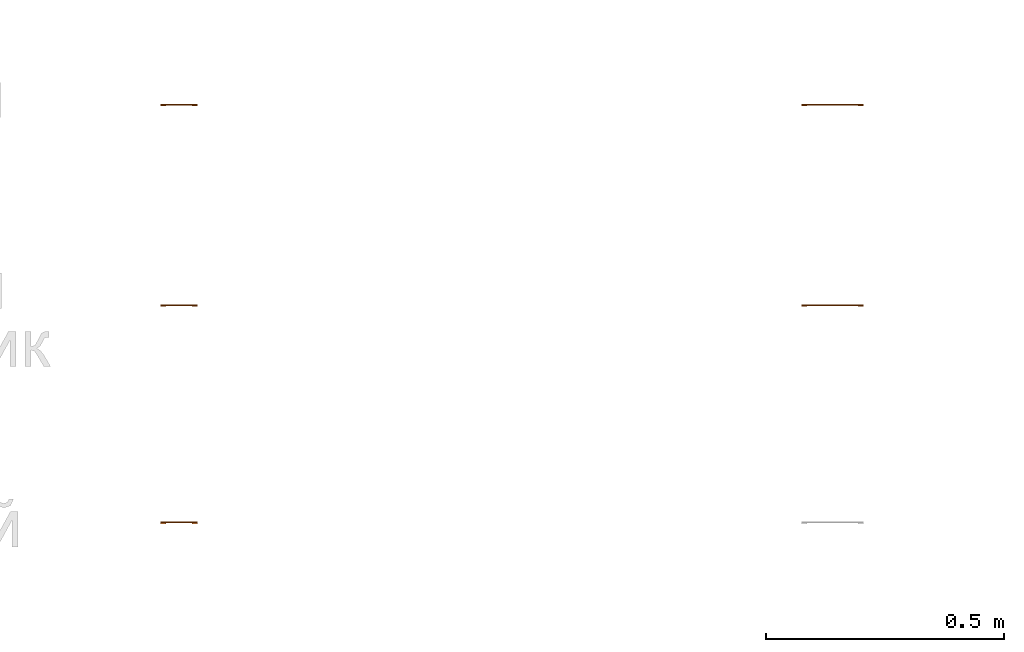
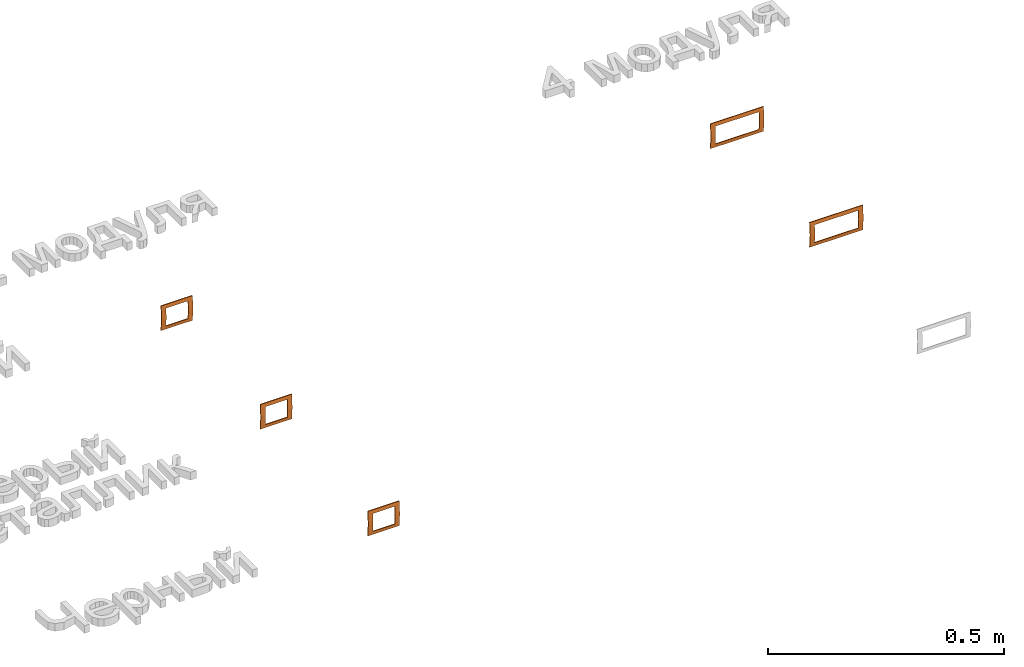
# One storey, part 81 of 87: 5 proxies.
"""IFC2X3 building model written with IfcOpenShell, lengths in millimetres."""

from ifc_helpers import new_model, entity, si_unit, converted_unit, derived_unit, direction, frame, origin, place, context, subcontext, project, spatial, faceted_brep, source, transform, mapped, material, type_object, type_shapes, element, save


model = new_model("IFC2X3")

# Units and contexts
model_context = context("Model", 3, precision=0.01, world=origin(), true_north=direction((6.12303176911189e-17, 1.0)))
body_context = subcontext(model_context, "Body", "Model", "MODEL_VIEW")
ifc_project = project(units=[si_unit("LENGTHUNIT", "METRE", prefix="MILLI"), si_unit("AREAUNIT", "SQUARE_METRE"), si_unit("VOLUMEUNIT", "CUBIC_METRE"), converted_unit("PLANEANGLEUNIT", "DEGREE", entity("IfcRatioMeasure", 0.0174532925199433), si_unit("PLANEANGLEUNIT", "RADIAN"), dimensions=[0, 0, 0, 0, 0, 0, 0]), si_unit("MASSUNIT", "GRAM", prefix="KILO"), derived_unit("MASSDENSITYUNIT", [(si_unit("MASSUNIT", "GRAM", prefix="KILO"), 1), (si_unit("LENGTHUNIT", "METRE"), -3)]), si_unit("TIMEUNIT", "SECOND"), si_unit("FREQUENCYUNIT", "HERTZ"), si_unit("THERMODYNAMICTEMPERATUREUNIT", "DEGREE_CELSIUS"), derived_unit("THERMALTRANSMITTANCEUNIT", [(si_unit("MASSUNIT", "GRAM", prefix="KILO"), 1), (si_unit("THERMODYNAMICTEMPERATUREUNIT", "KELVIN"), -1), (si_unit("TIMEUNIT", "SECOND"), -3)]), derived_unit("VOLUMETRICFLOWRATEUNIT", [(si_unit("LENGTHUNIT", "METRE"), 3), (si_unit("TIMEUNIT", "SECOND"), -1)]), si_unit("ELECTRICCURRENTUNIT", "AMPERE"), si_unit("ELECTRICVOLTAGEUNIT", "VOLT"), si_unit("POWERUNIT", "WATT"), si_unit("FORCEUNIT", "NEWTON", prefix="KILO"), si_unit("ILLUMINANCEUNIT", "LUX"), si_unit("LUMINOUSFLUXUNIT", "LUMEN"), si_unit("LUMINOUSINTENSITYUNIT", "CANDELA"), derived_unit("USERDEFINED", [(si_unit("MASSUNIT", "GRAM", prefix="KILO"), -1), (si_unit("LENGTHUNIT", "METRE"), -2), (si_unit("TIMEUNIT", "SECOND"), 3), (si_unit("LUMINOUSFLUXUNIT", "LUMEN"), 1)]), derived_unit("LINEARVELOCITYUNIT", [(si_unit("LENGTHUNIT", "METRE"), 1), (si_unit("TIMEUNIT", "SECOND"), -1)]), si_unit("PRESSUREUNIT", "PASCAL"), derived_unit("USERDEFINED", [(si_unit("LENGTHUNIT", "METRE"), -2), (si_unit("MASSUNIT", "GRAM", prefix="KILO"), 1), (si_unit("TIMEUNIT", "SECOND"), -2)])], contexts=[model_context])

# Site, building, storey
site_placement = place(None, origin())
site = spatial("IfcSite", under=ifc_project, at=site_placement, Name="Default", CompositionType="ELEMENT")
building_placement = place(site_placement, origin())
building = spatial("IfcBuilding", under=site, at=building_placement, Name="Наименование здания", CompositionType="ELEMENT")
storey_placement = place(building_placement, origin())
storey = spatial("IfcBuildingStorey", under=building, at=storey_placement, Name="Этаж 01", CompositionType="ELEMENT", Elevation=0.0)

# Proxies
ifc_material_1 = material(Name="DKC_Пластик_Белый")
building_element_proxy_type_1 = type_object("IfcBuildingElementProxyType", Name="2 модуля", PredefinedType="NOTDEFINED", material=ifc_material_1)
shared_shape_1 = source(origin(), body_context, "Body", "Brep", [
    faceted_brep([(38.5, -2.0, -31.9768143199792), (38.5, 0.0, -31.9768143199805), (38.5, -1.2790477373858, -15.9884071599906), (38.5, -2.55809547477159, 0.0), (38.5, -1.279047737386, 15.9884071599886), (38.5, 0.0, 31.9768143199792), (38.5, -2.0, 31.9768143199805), (38.5, -3.27904773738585, 15.9884071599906), (38.5, -4.55809547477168, 0.0), (38.5, -3.27904773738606, -15.9884071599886), (-38.5, -2.0, 31.9768143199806), (-38.5, 0.0, 31.9768143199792), (-38.5, -1.279047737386, 15.9884071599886), (-38.5, -2.55809547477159, 0.0), (-38.5, -1.27904773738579, -15.9884071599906), (-38.5, 0.0, -31.9768143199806), (-38.5, -2.0, -31.9768143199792), (-38.5, -3.27904773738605, -15.9884071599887), (-38.5, -4.55809547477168, 0.0), (-38.5, -3.27904773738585, 15.9884071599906), (-27.0, -4.55809547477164, 0.0), (-27.0, -3.89975693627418, 11.4884071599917), (27.0, -3.89975693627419, 11.4884071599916), (27.0, -4.55809547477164, 0.0), (-4.21978989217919e-06, -2.0, -31.9768143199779), (19.2500021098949, -2.0, -31.9768143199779), (27.0, -3.24141839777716, -22.9768143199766), (13.5, -3.24141839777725, -22.9768143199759), (0.0, -3.24141839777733, -22.9768143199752), (-13.5, -3.24141839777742, -22.9768143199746), (-27.0, -3.2414183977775, -22.9768143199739), (-19.2500021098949, -2.0, -31.9768143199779), (-27.0, -3.89975693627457, -11.4884071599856), (-27.0, -3.24141839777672, 22.9768143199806), (13.4999996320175, -3.24141839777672, 22.9768143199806), (27.0, -3.24141839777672, 22.9768143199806), (19.2499993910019, -2.0, 31.9768143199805), (-1.21799616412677e-06, -2.0, 31.9768143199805), (-19.2500018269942, -2.0, 31.9768143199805), (-13.4999996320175, -3.24141839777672, 22.9768143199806), (7.35965090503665e-07, -3.24141839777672, 22.9768143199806), (27.0, -3.8997569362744, -11.4884071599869), (-19.25, 0.0, -31.9768143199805), (0.0, 0.0, -31.9768143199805), (19.25, 0.0, -31.9768143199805), (-13.5, -1.24141839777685, -22.9768143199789), (0.0, -1.24141839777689, -22.9768143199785), (13.5, -1.24141839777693, -22.9768143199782), (27.0, -1.24141839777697, -22.9768143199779), (-27.0, -1.24141839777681, -22.9768143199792), (27.0, -1.89975693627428, -11.4884071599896), (27.0, -2.55809547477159, 0.0), (-27.0, -2.55809547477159, 0.0), (-27.0, -1.8997569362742, -11.4884071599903), (-27.0, -1.24141839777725, 22.9768143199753), (-27.0, -1.89975693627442, 11.488407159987), (3.11447244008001e-06, -1.24141839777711, 22.9768143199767), (-13.5000015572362, -1.24141839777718, 22.976814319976), (-19.2499978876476, 0.0, 31.9768143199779), (4.224704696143e-06, 0.0, 31.9768143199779), (19.250006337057, 0.0, 31.9768143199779), (27.0, -1.24141839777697, 22.976814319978), (13.5000015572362, -1.24141839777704, 22.9768143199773), (27.0, -1.89975693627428, 11.4884071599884)], [[[0, 1, 2, 3, 4, 5, 6, 7, 8, 9]], [[10, 11, 12, 13, 14, 15, 16, 17, 18, 19]], [[18, 20, 21]], [[8, 22, 23]], [[24, 25, 0, 26, 27, 28, 29, 30, 16, 31]], [[17, 32, 18]], [[19, 21, 33]], [[34, 35, 6, 36, 37, 38, 10, 33, 39, 40]], [[33, 10, 19]], [[6, 35, 7]], [[18, 32, 20]], [[41, 8, 23]], [[26, 0, 9]], [[16, 30, 17]], [[9, 41, 26]], [[7, 22, 8]], [[17, 30, 32]], [[8, 41, 9]], [[7, 35, 22]], [[18, 21, 19]], [[1, 0, 25, 24, 31, 16, 15, 42, 43, 44]], [[45, 46, 47, 48, 1, 44, 43, 42, 15, 49]], [[50, 51, 3]], [[52, 53, 13]], [[15, 14, 49]], [[14, 13, 53]], [[12, 54, 55]], [[12, 11, 54]], [[56, 57, 54, 11, 58, 59, 60, 5, 61, 62]], [[61, 5, 4]], [[4, 3, 63]], [[51, 63, 3]], [[55, 52, 13]], [[2, 1, 48]], [[2, 48, 50]], [[12, 55, 13]], [[63, 61, 4]], [[2, 50, 3]], [[53, 49, 14]], [[6, 5, 60, 59, 58, 11, 10, 38, 37, 36]], [[26, 41, 23, 22, 35, 61, 63, 51, 50, 48]], [[33, 21, 20, 32, 30, 49, 53, 52, 55, 54]], [[35, 34, 40, 39, 33, 54, 57, 56, 62, 61]], [[26, 48, 47, 46, 45, 49, 30, 29, 28, 27]]]),
])
type_shapes(building_element_proxy_type_1, [shared_shape_1])
proxy_1_placement = place(storey_placement, frame((77304.4662281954, -7638.63930816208, 0.0)))
element("IfcBuildingElementProxy", 1, at=proxy_1_placement, inside=storey, type_object=building_element_proxy_type_1, material=ifc_material_1, Name="КНС_РамкаУниверсальная_ILF_DKC:2 модуля", ObjectType="2 модуля", context=body_context, shape_type="MappedRepresentation", body=[
    mapped(shared_shape_1, transform((0.0, 0.0, 0.0), scale=1.0)),
])
ifc_material_2 = material(Name="DKC_Пластик_СерыйМеталлик")
building_element_proxy_type_2 = type_object("IfcBuildingElementProxyType", Name="2 модуля", PredefinedType="NOTDEFINED", material=ifc_material_2)
shared_shape_2 = source(origin(), body_context, "Body", "Brep", [
    faceted_brep([(27.0, -3.24141839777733, -22.9768143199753), (27.0, -3.89975693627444, -11.488407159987), (27.0, -4.55809547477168, 0.0), (27.0, -3.89975693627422, 11.4884071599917), (27.0, -3.24141839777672, 22.9768143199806), (27.0, -1.24141839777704, 22.9768143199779), (27.0, -1.89975693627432, 11.4884071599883), (27.0, -2.55809547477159, 0.0), (27.0, -1.89975693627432, -11.4884071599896), (27.0, -1.24141839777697, -22.9768143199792), (-27.0, -3.24141839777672, 22.9768143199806), (-27.0, -3.89975693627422, 11.4884071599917), (-27.0, -4.55809547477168, 0.0), (-27.0, -3.89975693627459, -11.4884071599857), (-27.0, -3.24141839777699, -22.9768143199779), (-27.0, -1.24141839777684, -22.9768143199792), (-27.0, -1.89975693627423, -11.4884071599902), (-27.0, -2.55809547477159, 0.0), (-27.0, -1.89975693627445, 11.488407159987), (-27.0, -1.24141839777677, 22.9768143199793), (13.4999996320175, -3.24141839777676, 22.9768143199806), (7.35965086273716e-07, -3.24141839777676, 22.9768143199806), (-13.4999996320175, -3.24141839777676, 22.9768143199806), (-13.4999968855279, -1.24141839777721, 22.976814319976), (0.0, -1.24141839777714, 22.9768143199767), (13.4999968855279, -1.24141839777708, 22.9768143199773), (13.5000003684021, -1.24141839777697, -22.9768143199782), (7.36804227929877e-07, -1.24141839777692, -22.9768143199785), (-13.5000003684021, -1.24141839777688, -22.9768143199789), (-13.499996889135, -3.24141839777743, -22.9768143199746), (0.0, -3.24141839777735, -22.9768143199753), (13.499996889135, -3.24141839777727, -22.9768143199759), (38.5000000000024, -2.0, -31.9768143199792), (38.5000000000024, 0.0, -31.9768143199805), (38.5000000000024, -1.27904773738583, -15.9884071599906), (38.5000000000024, -2.55809547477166, 0.0), (38.5000000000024, -1.27904773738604, 15.9884071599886), (38.5000000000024, 0.0, 31.9768143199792), (38.5000000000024, -2.0, 31.9768143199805), (38.5000000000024, -3.27904773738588, 15.9884071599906), (38.5000000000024, -4.55809547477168, 0.0), (38.5000000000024, -3.27904773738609, -15.9884071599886), (-38.5000000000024, -2.0, 31.9768143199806), (-38.5000000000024, 0.0, 31.9768143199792), (-38.5000000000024, -1.27904773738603, 15.9884071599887), (-38.5000000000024, -2.55809547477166, 0.0), (-38.5000000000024, -1.27904773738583, -15.9884071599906), (-38.5000000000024, 0.0, -31.9768143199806), (-38.5000000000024, -2.0, -31.9768143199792), (-38.5000000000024, -3.27904773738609, -15.9884071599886), (-38.5000000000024, -4.55809547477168, 0.0), (-38.5000000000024, -3.27904773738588, 15.9884071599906), (-4.21978989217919e-06, -2.0, -31.9768143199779), (19.2500021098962, -2.0, -31.9768143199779), (-19.2500021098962, -2.0, -31.9768143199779), (19.2499993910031, -2.0, 31.9768143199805), (-1.21799616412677e-06, -2.0, 31.9768143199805), (-19.2500018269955, -2.0, 31.9768143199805), (-19.2500000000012, 0.0, -31.9768143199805), (0.0, 0.0, -31.9768143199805), (19.2500000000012, 0.0, -31.9768143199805), (-19.2499978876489, 0.0, 31.9768143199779), (4.224704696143e-06, 0.0, 31.9768143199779), (19.2500063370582, 0.0, 31.9768143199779)], [[[0, 1, 2, 3, 4, 5, 6, 7, 8, 9]], [[10, 11, 12, 13, 14, 15, 16, 17, 18, 19]], [[4, 20, 21, 22, 10, 19, 23, 24, 25, 5]], [[0, 9, 26, 27, 28, 15, 14, 29, 30, 31]], [[32, 33, 34, 35, 36, 37, 38, 39, 40, 41]], [[42, 43, 44, 45, 46, 47, 48, 49, 50, 51]], [[50, 12, 11]], [[40, 3, 2]], [[52, 53, 32, 0, 31, 30, 29, 14, 48, 54]], [[49, 13, 50]], [[51, 11, 10]], [[20, 4, 38, 55, 56, 57, 42, 10, 22, 21]], [[10, 42, 51]], [[38, 4, 39]], [[50, 13, 12]], [[1, 40, 2]], [[0, 32, 41]], [[48, 14, 49]], [[41, 1, 0]], [[39, 3, 40]], [[49, 14, 13]], [[40, 1, 41]], [[39, 4, 3]], [[50, 11, 51]], [[33, 32, 53, 52, 54, 48, 47, 58, 59, 60]], [[28, 27, 26, 9, 33, 60, 59, 58, 47, 15]], [[8, 7, 35]], [[17, 16, 45]], [[47, 46, 15]], [[46, 45, 16]], [[44, 19, 18]], [[44, 43, 19]], [[24, 23, 19, 43, 61, 62, 63, 37, 5, 25]], [[5, 37, 36]], [[36, 35, 6]], [[7, 6, 35]], [[18, 17, 45]], [[34, 33, 9]], [[34, 9, 8]], [[44, 18, 45]], [[6, 5, 36]], [[34, 8, 35]], [[16, 15, 46]], [[37, 63, 62, 61, 43, 42, 57, 56, 55, 38]]]),
])
type_shapes(building_element_proxy_type_2, [shared_shape_2])
proxy_2_placement = place(storey_placement, frame((77304.4662281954, -8059.01064109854, 0.0)))
element("IfcBuildingElementProxy", 2, at=proxy_2_placement, inside=storey, type_object=building_element_proxy_type_2, material=ifc_material_2, Name="КНС_РамкаУниверсальная_ILF_DKC:2 модуля", ObjectType="2 модуля", context=body_context, shape_type="MappedRepresentation", body=[
    mapped(shared_shape_2, transform((0.0, 0.0, 0.0), scale=1.0)),
])
ifc_material_3 = material(Name="DKC_Пластик_Серо-черный")
building_element_proxy_type_3 = type_object("IfcBuildingElementProxyType", Name="2 модуля", PredefinedType="NOTDEFINED", material=ifc_material_3)
shared_shape_3 = source(origin(), body_context, "Body", "Brep", [
    faceted_brep([(27.0, -3.2414183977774, -22.9768143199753), (27.0, -3.89975693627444, -11.488407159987), (27.0, -4.55809547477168, 0.0), (27.0, -3.89975693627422, 11.4884071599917), (27.0, -3.24141839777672, 22.9768143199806), (27.0, -1.24141839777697, 22.976814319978), (27.0, -1.89975693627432, 11.4884071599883), (27.0, -2.55809547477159, 0.0), (27.0, -1.89975693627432, -11.4884071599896), (27.0, -1.24141839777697, -22.9768143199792), (-27.0, -3.24141839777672, 22.9768143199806), (-27.0, -3.89975693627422, 11.4884071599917), (-27.0, -4.55809547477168, 0.0), (-27.0, -3.89975693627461, -11.4884071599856), (-27.0, -3.24141839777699, -22.9768143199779), (-27.0, -1.24141839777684, -22.9768143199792), (-27.0, -1.89975693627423, -11.4884071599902), (-27.0, -2.55809547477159, 0.0), (-27.0, -1.89975693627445, 11.4884071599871), (-27.0, -1.24141839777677, 22.9768143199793), (13.4999996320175, -3.24141839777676, 22.9768143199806), (7.35965086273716e-07, -3.24141839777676, 22.9768143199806), (-13.4999996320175, -3.24141839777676, 22.9768143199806), (-13.5000015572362, -1.24141839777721, 22.9768143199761), (3.11447243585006e-06, -1.24141839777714, 22.9768143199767), (13.5000015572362, -1.24141839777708, 22.9768143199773), (13.5000003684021, -1.24141839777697, -22.9768143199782), (7.36804227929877e-07, -1.24141839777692, -22.9768143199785), (-13.5000003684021, -1.24141839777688, -22.9768143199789), (-13.4999984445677, -3.24141839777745, -22.9768143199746), (3.11086464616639e-06, -3.24141839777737, -22.9768143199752), (13.4999984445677, -3.24141839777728, -22.9768143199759), (38.5000000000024, -2.0, -31.9768143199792), (38.5000000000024, 0.0, -31.9768143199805), (38.5000000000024, -1.27904773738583, -15.9884071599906), (38.5000000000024, -2.55809547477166, 0.0), (38.5000000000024, -1.27904773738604, 15.9884071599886), (38.5000000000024, 0.0, 31.9768143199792), (38.5000000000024, -2.0, 31.9768143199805), (38.5000000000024, -3.27904773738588, 15.9884071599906), (38.5000000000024, -4.55809547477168, 0.0), (38.5000000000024, -3.27904773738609, -15.9884071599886), (-38.5000000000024, -2.0, 31.9768143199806), (-38.5000000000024, 0.0, 31.9768143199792), (-38.5000000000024, -1.27904773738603, 15.9884071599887), (-38.5000000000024, -2.55809547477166, 0.0), (-38.5000000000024, -1.27904773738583, -15.9884071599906), (-38.5000000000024, 0.0, -31.9768143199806), (-38.5000000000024, -2.0, -31.9768143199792), (-38.5000000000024, -3.27904773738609, -15.9884071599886), (-38.5000000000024, -4.55809547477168, 0.0), (-38.5000000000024, -3.27904773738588, 15.9884071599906), (-4.21978989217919e-06, -2.0, -31.9768143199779), (19.2500021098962, -2.0, -31.9768143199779), (-19.2500021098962, -2.0, -31.9768143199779), (19.2499993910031, -2.0, 31.9768143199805), (-1.21799616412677e-06, -2.0, 31.9768143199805), (-19.2500018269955, -2.0, 31.9768143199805), (-19.2500000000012, 0.0, -31.9768143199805), (0.0, 0.0, -31.9768143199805), (19.2500000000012, 0.0, -31.9768143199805), (-19.2499978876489, 0.0, 31.9768143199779), (4.224704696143e-06, 0.0, 31.9768143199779), (19.2500063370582, 0.0, 31.9768143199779)], [[[0, 1, 2, 3, 4, 5, 6, 7, 8, 9]], [[10, 11, 12, 13, 14, 15, 16, 17, 18, 19]], [[4, 20, 21, 22, 10, 19, 23, 24, 25, 5]], [[0, 9, 26, 27, 28, 15, 14, 29, 30, 31]], [[32, 33, 34, 35, 36, 37, 38, 39, 40, 41]], [[42, 43, 44, 45, 46, 47, 48, 49, 50, 51]], [[50, 12, 11]], [[40, 3, 2]], [[52, 53, 32, 0, 31, 30, 29, 14, 48, 54]], [[49, 13, 50]], [[51, 11, 10]], [[20, 4, 38, 55, 56, 57, 42, 10, 22, 21]], [[10, 42, 51]], [[38, 4, 39]], [[50, 13, 12]], [[1, 40, 2]], [[0, 32, 41]], [[48, 14, 49]], [[41, 1, 0]], [[39, 3, 40]], [[49, 14, 13]], [[40, 1, 41]], [[39, 4, 3]], [[50, 11, 51]], [[33, 32, 53, 52, 54, 48, 47, 58, 59, 60]], [[28, 27, 26, 9, 33, 60, 59, 58, 47, 15]], [[8, 7, 35]], [[17, 16, 45]], [[47, 46, 15]], [[46, 45, 16]], [[44, 19, 18]], [[44, 43, 19]], [[24, 23, 19, 43, 61, 62, 63, 37, 5, 25]], [[5, 37, 36]], [[36, 35, 6]], [[7, 6, 35]], [[18, 17, 45]], [[34, 33, 9]], [[34, 9, 8]], [[44, 18, 45]], [[6, 5, 36]], [[34, 8, 35]], [[16, 15, 46]], [[37, 63, 62, 61, 43, 42, 57, 56, 55, 38]]]),
])
type_shapes(building_element_proxy_type_3, [shared_shape_3])
proxy_3_placement = place(storey_placement, frame((77304.4662281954, -8514.43036670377, 0.0)))
element("IfcBuildingElementProxy", 3, at=proxy_3_placement, inside=storey, type_object=building_element_proxy_type_3, material=ifc_material_3, Name="КНС_РамкаУниверсальная_ILF_DKC:2 модуля", ObjectType="2 модуля", context=body_context, shape_type="MappedRepresentation", body=[
    mapped(shared_shape_3, transform((0.0, 0.0, 0.0), scale=1.0)),
])
building_element_proxy_type_4 = type_object("IfcBuildingElementProxyType", Name="4 модуля", PredefinedType="NOTDEFINED", material=ifc_material_1)
shared_shape_4 = source(origin(), body_context, "Body", "Brep", [
    faceted_brep([(65.0, -2.0, -31.9768143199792), (65.0, 0.0, -31.9768143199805), (65.0, -0.639523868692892, -23.9826107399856), (65.0, -1.27904773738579, -15.9884071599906), (65.0, -1.91857160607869, -7.99420357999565), (65.0, -2.55809547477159, 0.0), (65.0, -1.91857160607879, 7.99420357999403), (65.0, -1.279047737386, 15.9884071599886), (65.0, -0.639523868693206, 23.9826107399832), (65.0, 0.0, 31.9768143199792), (65.0, -2.0, 31.9768143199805), (65.0, -2.63952386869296, 23.9826107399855), (65.0, -3.27904773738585, 15.9884071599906), (65.0, -3.91857160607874, 7.99420357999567), (65.0, -4.55809547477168, 0.0), (65.0, -3.91857160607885, -7.99420357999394), (65.0, -3.27904773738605, -15.9884071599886), (65.0, -2.63952386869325, -23.9826107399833), (-65.0, -2.0, 31.9768143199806), (-65.0, 0.0, 31.9768143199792), (-65.0, -0.639523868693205, 23.9826107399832), (-65.0, -1.279047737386, 15.9884071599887), (-65.0, -1.91857160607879, 7.99420357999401), (-65.0, -2.55809547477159, 0.0), (-65.0, -1.91857160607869, -7.99420357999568), (-65.0, -1.2790477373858, -15.9884071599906), (-65.0, -0.639523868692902, -23.9826107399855), (-65.0, 0.0, -31.9768143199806), (-65.0, -2.0, -31.9768143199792), (-65.0, -2.63952386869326, -23.9826107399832), (-65.0, -3.27904773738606, -15.9884071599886), (-65.0, -3.91857160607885, -7.99420357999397), (-65.0, -4.55809547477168, 0.0), (-65.0, -3.91857160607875, 7.99420357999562), (-65.0, -3.27904773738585, 15.9884071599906), (-65.0, -2.63952386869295, 23.9826107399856), (-53.5, -4.22892620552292, 5.74420357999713), (-53.5, -3.89975693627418, 11.4884071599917), (53.5, -3.57058766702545, 17.2326107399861), (53.5, -3.24141839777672, 22.9768143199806), (-53.5, -3.89975693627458, -11.4884071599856), (-53.5, -3.57058766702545, 17.2326107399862), (-53.5, -3.24141839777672, 22.9768143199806), (26.75, -3.24141839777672, 22.9768143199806), (32.5, -2.0, 31.9768143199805), (0.0, -2.0, 31.9768143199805), (-32.5, -2.0, 31.9768143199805), (-26.75, -3.24141839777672, 22.9768143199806), (0.0, -3.24141839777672, 22.9768143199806), (-53.5, -4.22892620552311, -5.74420357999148), (53.5, -3.57058766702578, -17.2326107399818), (53.5, -4.22892620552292, 5.74420357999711), (-53.5, -3.2414183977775, -22.9768143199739), (0.0, -2.0, -31.9768143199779), (32.5, -2.0, -31.9768143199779), (53.5, -3.24141839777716, -22.9768143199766), (26.75, -3.24141839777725, -22.9768143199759), (0.0, -3.24141839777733, -22.9768143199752), (-26.75, -3.24141839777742, -22.9768143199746), (-32.5, -2.0, -31.9768143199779), (53.5, -4.22892620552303, -5.74420357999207), (53.5, -3.8997569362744, -11.4884071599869), (53.5, -3.89975693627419, 11.4884071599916), (-53.5, -3.57058766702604, -17.2326107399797), (-53.5, -4.55809547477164, 0.0), (53.5, -4.55809547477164, 0.0), (-32.5, 0.0, -31.9768143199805), (0.0, 0.0, -31.9768143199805), (32.5, 0.0, -31.9768143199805), (-26.75, -1.24141839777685, -22.9768143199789), (0.0, -1.24141839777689, -22.9768143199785), (26.75, -1.24141839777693, -22.9768143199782), (53.5, -1.24141839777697, -22.9768143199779), (-53.5, -1.24141839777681, -22.9768143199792), (53.5, -1.89975693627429, -11.4884071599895), (53.5, -2.22892620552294, -5.74420357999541), (-53.5, -2.2289262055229, -5.74420357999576), (-53.5, -1.8997569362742, -11.4884071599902), (-53.5, -1.57058766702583, 17.2326107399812), (-53.5, -1.24141839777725, 22.9768143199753), (53.5, -1.24141839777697, 22.976814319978), (-32.5, 0.0, 31.9768143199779), (0.0, 0.0, 31.9768143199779), (32.5, 0.0, 31.9768143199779), (26.75, -1.24141839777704, 22.9768143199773), (0.0, -1.24141839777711, 22.9768143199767), (-26.75, -1.24141839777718, 22.976814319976), (53.5, -1.89975693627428, 11.4884071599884), (53.5, -2.22892620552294, 5.74420357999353), (-53.5, -1.89975693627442, 11.4884071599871), (-53.5, -2.22892620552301, 5.74420357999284), (53.5, -1.57058766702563, -17.2326107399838), (53.5, -1.57058766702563, 17.2326107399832), (-53.5, -1.5705876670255, -17.2326107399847), (-53.5, -2.55809547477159, 0.0), (53.5, -2.55809547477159, 0.0)], [[[0, 1, 2, 3, 4, 5, 6, 7, 8, 9, 10, 11, 12, 13, 14, 15, 16, 17]], [[18, 19, 20, 21, 22, 23, 24, 25, 26, 27, 28, 29, 30, 31, 32, 33, 34, 35]], [[36, 37, 33]], [[38, 11, 39]], [[30, 40, 31]], [[41, 42, 35]], [[43, 39, 10, 44, 45, 46, 18, 42, 47, 48]], [[35, 34, 41]], [[10, 39, 11]], [[49, 32, 31]], [[17, 16, 50]], [[51, 14, 13]], [[28, 52, 29]], [[53, 54, 0, 55, 56, 57, 58, 52, 28, 59]], [[15, 60, 61]], [[50, 55, 17]], [[55, 0, 17]], [[12, 62, 13]], [[42, 18, 35]], [[63, 29, 52]], [[36, 32, 64]], [[14, 51, 65]], [[30, 63, 40]], [[60, 14, 65]], [[32, 49, 64]], [[12, 38, 62]], [[34, 37, 41]], [[29, 63, 30]], [[16, 61, 50]], [[11, 38, 12]], [[37, 34, 33]], [[61, 16, 15]], [[14, 60, 15]], [[32, 36, 33]], [[31, 40, 49]], [[13, 62, 51]], [[1, 0, 54, 53, 59, 28, 27, 66, 67, 68]], [[69, 70, 71, 72, 1, 68, 67, 66, 27, 73]], [[4, 74, 75]], [[24, 23, 76]], [[27, 26, 73]], [[25, 24, 77]], [[78, 20, 79]], [[78, 21, 20]], [[2, 1, 72]], [[80, 9, 8]], [[79, 19, 81, 82, 83, 9, 80, 84, 85, 86]], [[7, 6, 87]], [[6, 5, 88]], [[22, 89, 90]], [[91, 3, 2]], [[80, 8, 92]], [[91, 2, 72]], [[73, 26, 93]], [[20, 19, 79]], [[77, 93, 25]], [[94, 23, 90]], [[95, 88, 5]], [[87, 92, 7]], [[95, 5, 75]], [[94, 76, 23]], [[25, 93, 26]], [[78, 89, 21]], [[7, 92, 8]], [[91, 74, 3]], [[22, 21, 89]], [[4, 3, 74]], [[4, 75, 5]], [[22, 90, 23]], [[76, 77, 24]], [[88, 87, 6]], [[10, 9, 83, 82, 81, 19, 18, 46, 45, 44]], [[55, 50, 61, 60, 65, 51, 62, 38, 39, 80, 92, 87, 88, 95, 75, 74, 91, 72]], [[42, 41, 37, 36, 64, 49, 40, 63, 52, 73, 93, 77, 76, 94, 90, 89, 78, 79]], [[80, 39, 43, 48, 47, 42, 79, 86, 85, 84]], [[55, 72, 71, 70, 69, 73, 52, 58, 57, 56]]]),
])
type_shapes(building_element_proxy_type_4, [shared_shape_4])
proxy_4_placement = place(storey_placement, frame((78674.7265172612, -7638.63930816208, 0.0)))
element("IfcBuildingElementProxy", 4, at=proxy_4_placement, inside=storey, type_object=building_element_proxy_type_4, material=ifc_material_1, Name="КНС_РамкаУниверсальная_ILF_DKC:4 модуля", ObjectType="4 модуля", context=body_context, shape_type="MappedRepresentation", body=[
    mapped(shared_shape_4, transform((0.0, 0.0, 0.0), scale=1.0)),
])
building_element_proxy_type_5 = type_object("IfcBuildingElementProxyType", Name="4 модуля", PredefinedType="NOTDEFINED", material=ifc_material_2)
shared_shape_5 = source(origin(), body_context, "Body", "Brep", [
    faceted_brep([(53.5, -3.24141839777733, -22.9768143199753), (53.5, -3.57058766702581, -17.2326107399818), (53.5, -3.89975693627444, -11.4884071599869), (53.5, -4.22892620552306, -5.74420357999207), (53.5, -4.55809547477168, 0.0), (53.5, -4.22892620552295, 5.74420357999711), (53.5, -3.89975693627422, 11.4884071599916), (53.5, -3.57058766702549, 17.2326107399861), (53.5, -3.24141839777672, 22.9768143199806), (53.5, -1.24141839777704, 22.9768143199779), (53.5, -1.57058766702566, 17.2326107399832), (53.5, -1.89975693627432, 11.4884071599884), (53.5, -2.22892620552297, 5.74420357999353), (53.5, -2.55809547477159, 0.0), (53.5, -2.22892620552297, -5.74420357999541), (53.5, -1.89975693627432, -11.4884071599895), (53.5, -1.57058766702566, -17.2326107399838), (53.5, -1.24141839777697, -22.9768143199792), (-53.5, -3.24141839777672, 22.9768143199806), (-53.5, -3.57058766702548, 17.2326107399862), (-53.5, -3.89975693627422, 11.4884071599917), (-53.5, -4.22892620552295, 5.74420357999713), (-53.5, -4.55809547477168, 0.0), (-53.5, -4.22892620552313, -5.74420357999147), (-53.5, -3.89975693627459, -11.4884071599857), (-53.5, -3.57058766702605, -17.2326107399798), (-53.5, -3.24141839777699, -22.9768143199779), (-53.5, -1.24141839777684, -22.9768143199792), (-53.5, -1.57058766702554, -17.2326107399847), (-53.5, -1.89975693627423, -11.4884071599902), (-53.5, -2.22892620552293, -5.74420357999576), (-53.5, -2.55809547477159, 0.0), (-53.5, -2.22892620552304, 5.74420357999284), (-53.5, -1.89975693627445, 11.4884071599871), (-53.5, -1.57058766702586, 17.2326107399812), (-53.5, -1.24141839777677, 22.9768143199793), (26.75, -3.24141839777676, 22.9768143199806), (0.0, -3.24141839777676, 22.9768143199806), (-26.75, -3.24141839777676, 22.9768143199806), (-26.75, -1.24141839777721, 22.976814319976), (0.0, -1.24141839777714, 22.9768143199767), (26.75, -1.24141839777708, 22.9768143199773), (26.75, -1.24141839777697, -22.9768143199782), (0.0, -1.24141839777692, -22.9768143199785), (-26.75, -1.24141839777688, -22.9768143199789), (-26.75, -3.24141839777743, -22.9768143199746), (0.0, -3.24141839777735, -22.9768143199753), (26.75, -3.24141839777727, -22.9768143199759), (65.0, -2.0, -31.9768143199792), (65.0, 0.0, -31.9768143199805), (65.0, -0.639523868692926, -23.9826107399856), (65.0, -1.27904773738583, -15.9884071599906), (65.0, -1.91857160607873, -7.99420357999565), (65.0, -2.55809547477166, 0.0), (65.0, -1.91857160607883, 7.99420357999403), (65.0, -1.27904773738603, 15.9884071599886), (65.0, -0.63952386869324, 23.9826107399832), (65.0, 0.0, 31.9768143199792), (65.0, -2.0, 31.9768143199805), (65.0, -2.63952386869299, 23.9826107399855), (65.0, -3.27904773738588, 15.9884071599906), (65.0, -3.91857160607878, 7.99420357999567), (65.0, -4.55809547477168, 0.0), (65.0, -3.91857160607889, -7.99420357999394), (65.0, -3.27904773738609, -15.9884071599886), (65.0, -2.63952386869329, -23.9826107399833), (-65.0, -2.0, 31.9768143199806), (-65.0, 0.0, 31.9768143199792), (-65.0, -0.639523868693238, 23.9826107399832), (-65.0, -1.27904773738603, 15.9884071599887), (-65.0, -1.91857160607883, 7.99420357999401), (-65.0, -2.55809547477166, 0.0), (-65.0, -1.91857160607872, -7.99420357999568), (-65.0, -1.27904773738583, -15.9884071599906), (-65.0, -0.639523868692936, -23.9826107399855), (-65.0, 0.0, -31.9768143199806), (-65.0, -2.0, -31.9768143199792), (-65.0, -2.6395238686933, -23.9826107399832), (-65.0, -3.27904773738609, -15.9884071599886), (-65.0, -3.91857160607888, -7.99420357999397), (-65.0, -4.55809547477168, 0.0), (-65.0, -3.91857160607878, 7.99420357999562), (-65.0, -3.27904773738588, 15.9884071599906), (-65.0, -2.63952386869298, 23.9826107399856), (32.5, -2.0, 31.9768143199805), (0.0, -2.0, 31.9768143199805), (-32.5, -2.0, 31.9768143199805), (0.0, -2.0, -31.9768143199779), (32.5, -2.0, -31.9768143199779), (-32.5, -2.0, -31.9768143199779), (-32.5, 0.0, -31.9768143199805), (0.0, 0.0, -31.9768143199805), (32.5, 0.0, -31.9768143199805), (-32.5, 0.0, 31.9768143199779), (0.0, 0.0, 31.9768143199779), (32.5, 0.0, 31.9768143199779)], [[[0, 1, 2, 3, 4, 5, 6, 7, 8, 9, 10, 11, 12, 13, 14, 15, 16, 17]], [[18, 19, 20, 21, 22, 23, 24, 25, 26, 27, 28, 29, 30, 31, 32, 33, 34, 35]], [[9, 8, 36, 37, 38, 18, 35, 39, 40, 41]], [[0, 17, 42, 43, 44, 27, 26, 45, 46, 47]], [[48, 49, 50, 51, 52, 53, 54, 55, 56, 57, 58, 59, 60, 61, 62, 63, 64, 65]], [[66, 67, 68, 69, 70, 71, 72, 73, 74, 75, 76, 77, 78, 79, 80, 81, 82, 83]], [[21, 20, 81]], [[7, 59, 8]], [[78, 24, 79]], [[19, 18, 83]], [[36, 8, 58, 84, 85, 86, 66, 18, 38, 37]], [[83, 82, 19]], [[58, 8, 59]], [[23, 80, 79]], [[65, 64, 1]], [[5, 62, 61]], [[76, 26, 77]], [[87, 88, 48, 0, 47, 46, 45, 26, 76, 89]], [[63, 3, 2]], [[1, 0, 65]], [[0, 48, 65]], [[60, 6, 61]], [[18, 66, 83]], [[25, 77, 26]], [[21, 80, 22]], [[62, 5, 4]], [[78, 25, 24]], [[3, 62, 4]], [[80, 23, 22]], [[60, 7, 6]], [[82, 20, 19]], [[77, 25, 78]], [[64, 2, 1]], [[59, 7, 60]], [[20, 82, 81]], [[2, 64, 63]], [[62, 3, 63]], [[80, 21, 81]], [[79, 24, 23]], [[61, 6, 5]], [[49, 48, 88, 87, 89, 76, 75, 90, 91, 92]], [[44, 43, 42, 17, 49, 92, 91, 90, 75, 27]], [[52, 15, 14]], [[72, 71, 30]], [[75, 74, 27]], [[73, 72, 29]], [[34, 68, 35]], [[34, 69, 68]], [[50, 49, 17]], [[9, 57, 56]], [[35, 67, 93, 94, 95, 57, 9, 41, 40, 39]], [[55, 54, 11]], [[54, 53, 12]], [[70, 33, 32]], [[16, 51, 50]], [[9, 56, 10]], [[16, 50, 17]], [[27, 74, 28]], [[68, 67, 35]], [[29, 28, 73]], [[31, 71, 32]], [[13, 12, 53]], [[11, 10, 55]], [[13, 53, 14]], [[31, 30, 71]], [[73, 28, 74]], [[34, 33, 69]], [[55, 10, 56]], [[16, 15, 51]], [[70, 69, 33]], [[52, 51, 15]], [[52, 14, 53]], [[70, 32, 71]], [[30, 29, 72]], [[12, 11, 54]], [[58, 57, 95, 94, 93, 67, 66, 86, 85, 84]]]),
])
type_shapes(building_element_proxy_type_5, [shared_shape_5])
proxy_5_placement = place(storey_placement, frame((78674.7265172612, -8059.01064109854, 0.0)))
element("IfcBuildingElementProxy", 5, at=proxy_5_placement, inside=storey, type_object=building_element_proxy_type_5, material=ifc_material_2, Name="КНС_РамкаУниверсальная_ILF_DKC:4 модуля", ObjectType="4 модуля", context=body_context, shape_type="MappedRepresentation", body=[
    mapped(shared_shape_5, transform((0.0, 0.0, 0.0), scale=1.0)),
])

save(model, "model.ifc")
